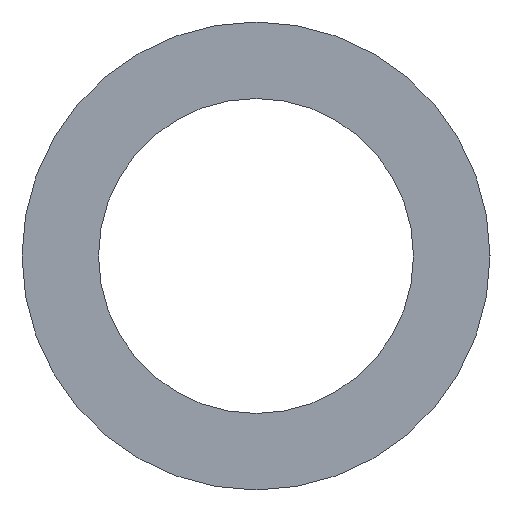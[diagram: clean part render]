
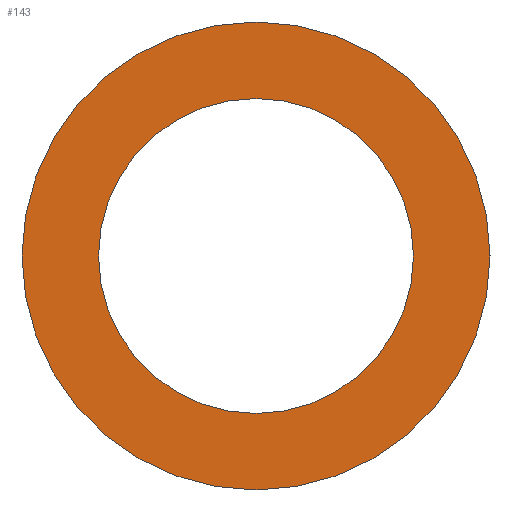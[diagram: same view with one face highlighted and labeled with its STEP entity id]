
A CAD part, left-side view. The second image highlights one B-rep face of the part: STEP entity #143.
In plain terms, the highlighted planar face has unit normal (-1, 0, 0).
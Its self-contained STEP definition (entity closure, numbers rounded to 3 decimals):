
#21=PLANE('',#173);
#32=ORIENTED_EDGE('',*,*,#55,.F.);
#33=ORIENTED_EDGE('',*,*,#56,.T.);
#55=EDGE_CURVE('',#67,#67,#79,.T.);
#56=EDGE_CURVE('',#68,#68,#80,.T.);
#67=VERTEX_POINT('',#255);
#68=VERTEX_POINT('',#257);
#79=CIRCLE('',#174,26.);
#80=CIRCLE('',#175,17.5);
#92=EDGE_LOOP('',(#32));
#93=EDGE_LOOP('',(#33));
#116=FACE_BOUND('',#92,.T.);
#117=FACE_BOUND('',#93,.T.);
#143=ADVANCED_FACE('',(#116,#117),#21,.F.);
#173=AXIS2_PLACEMENT_3D('',#253,#207,#208);
#174=AXIS2_PLACEMENT_3D('',#254,#209,#210);
#175=AXIS2_PLACEMENT_3D('',#256,#211,#212);
#207=DIRECTION('',(1.,0.,0.));
#208=DIRECTION('',(0.,0.,-1.));
#209=DIRECTION('',(1.,0.,0.));
#210=DIRECTION('',(0.,0.,-1.));
#211=DIRECTION('',(1.,0.,0.));
#212=DIRECTION('',(0.,0.,-1.));
#253=CARTESIAN_POINT('',(-67.5,0.,0.));
#254=CARTESIAN_POINT('',(-67.5,0.,0.));
#255=CARTESIAN_POINT('',(-67.5,0.,-26.));
#256=CARTESIAN_POINT('',(-67.5,0.,0.));
#257=CARTESIAN_POINT('',(-67.5,0.,-17.5));
